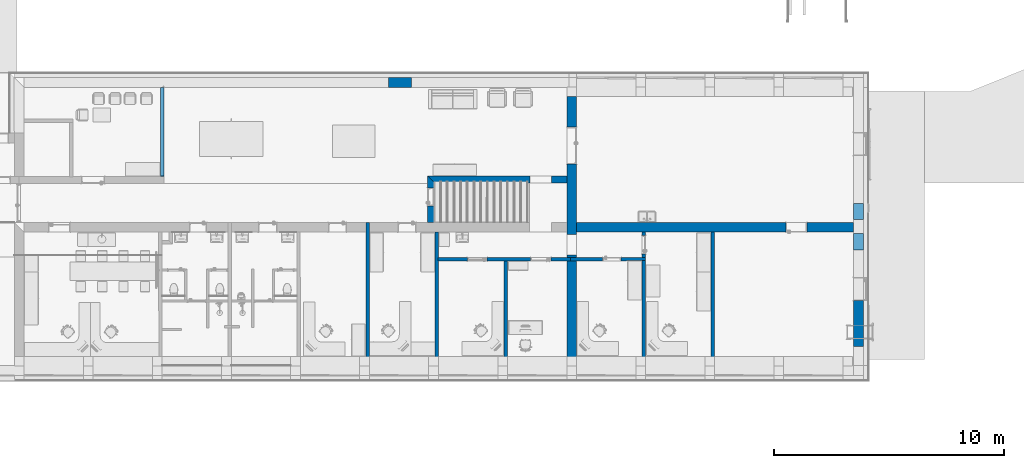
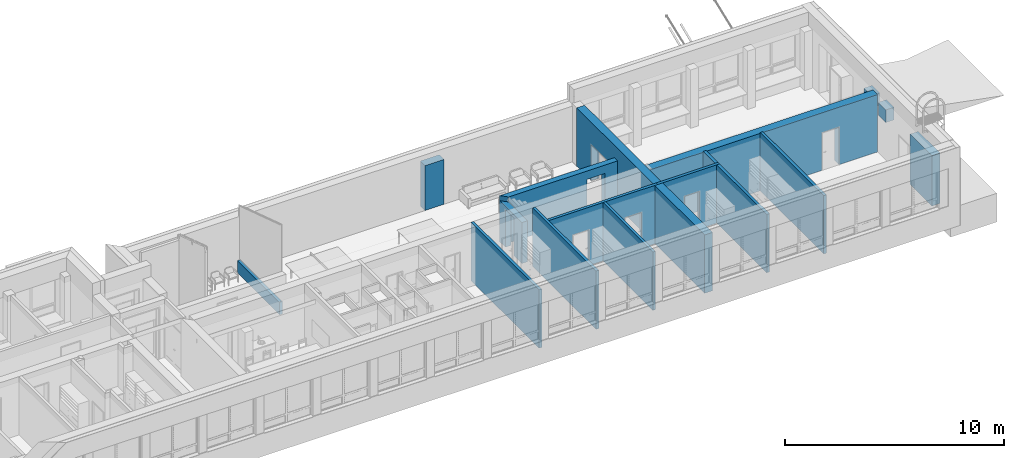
# One storey, part 26 of 194: 16 walls, 10 openings.
"""IFC2X3 building model written with IfcOpenShell, lengths in millimetres."""

import ifcopenshell
import ifcopenshell.guid

model = None  # the IFC model being written
_history = None  # IfcOwnerHistory: only IFC2X3 demands one
_inside = {}  # id of a spatial element -> (the spatial element, [elements in it])
_under = {}  # id of a project, library or spatial element -> (it, [spatial elements below it])
_declared = {}  # id of a project -> (the project, [libraries it declares])
_typed = {}  # id of a type object -> (the type object, [elements of that type])
_made_of = {}  # id of a material, layer set ... -> (it, [elements and type objects made of it])


def new_model(schema):
    """Start an empty IFC model of exactly this schema.

    Asked for "IFC4X3", IfcOpenShell would pick the latest addendum, in which some entities
    have other attributes; the version numbers below select the first issue.
    IFC2X3 requires an IfcOwnerHistory on every rooted entity: one is made here for all.
    """
    global model, _history
    if schema == "IFC4X3":
        model = ifcopenshell.file(schema_version=(4, 3, 0, 0))
    else:
        model = ifcopenshell.file(schema=schema)
    _inside.clear()
    _under.clear()
    _declared.clear()
    _typed.clear()
    _made_of.clear()
    _history = None
    if model.schema == "IFC2X3":
        org = make("IfcOrganization", Name="unknown")
        user = make(
            "IfcPersonAndOrganization",
            ThePerson=make("IfcPerson", FamilyName="unknown"),
            TheOrganization=org,
        )
        app = make(
            "IfcApplication",
            ApplicationDeveloper=org,
            Version="unknown",
            ApplicationFullName="unknown",
            ApplicationIdentifier="unknown",
        )
        _history = make(
            "IfcOwnerHistory",
            OwningUser=user,
            OwningApplication=app,
            ChangeAction="ADDED",
            CreationDate=0,
        )
    return model


def make(cls, **values):
    """One entity of the class cls with the attributes given. An attribute that is None is left unset."""
    return model.create_entity(
        cls, **{name: value for name, value in values.items() if value is not None}
    )


def entity(cls, *values):
    """Any entity or typed value of the class cls, its attributes in the order of the schema. None: left unset."""
    e = model.create_entity(cls)
    for i, value in enumerate(values):
        if value is not None:
            e[i] = value
    return e


def rooted(cls, **values):
    """An entity with a GlobalId (a new one), such as an element, a storey or a relation."""
    return make(cls, GlobalId=ifcopenshell.guid.new(), OwnerHistory=_history, **values)


def si_unit(unit_type, name, prefix=None):
    """IfcSIUnit, for example si_unit("LENGTHUNIT", "METRE", prefix="MILLI")."""
    return make("IfcSIUnit", UnitType=unit_type, Prefix=prefix, Name=name)


def converted_unit(unit_type, name, factor, base, dimensions=None, offset=None):
    """IfcConversionBasedUnit, such as the inch: factor (a typed value) times the base unit."""
    return make(
        "IfcConversionBasedUnit"
        if offset is None
        else "IfcConversionBasedUnitWithOffset",
        ConversionOffset=offset,
        Dimensions=None
        if dimensions is None
        else entity("IfcDimensionalExponents", *dimensions),
        UnitType=unit_type,
        Name=name,
        ConversionFactor=make(
            "IfcMeasureWithUnit", ValueComponent=factor, UnitComponent=base
        ),
    )


def derived_unit(unit_type, elements):
    """IfcDerivedUnit: a product of units, each with its exponent."""
    return make(
        "IfcDerivedUnit",
        Elements=[
            make("IfcDerivedUnitElement", Unit=unit, Exponent=power)
            for unit, power in elements
        ],
        UnitType=unit_type,
    )


def money_unit(currency):
    """IfcMonetaryUnit."""
    return make("IfcMonetaryUnit", Currency=currency)


def assignment(units):
    """IfcUnitAssignment: the units of a project."""
    return None if units is None else make("IfcUnitAssignment", Units=units)


def point(xyz):
    """IfcCartesianPoint."""
    return None if xyz is None else make("IfcCartesianPoint", Coordinates=xyz)


def direction(xyz):
    """IfcDirection."""
    return None if xyz is None else make("IfcDirection", DirectionRatios=xyz)


def frame(location, z_axis=None, x_axis=None):
    """IfcAxis2Placement3D, a coordinate frame: its origin and axes. An axis left out is left unset."""
    return make(
        "IfcAxis2Placement3D",
        Location=point(location),
        Axis=direction(z_axis),
        RefDirection=direction(x_axis),
    )


def frame_2d(location, x_axis=None):
    """IfcAxis2Placement2D, a coordinate frame in the plane: its origin and x axis."""
    return make(
        "IfcAxis2Placement2D", Location=point(location), RefDirection=direction(x_axis)
    )


def origin_with_axes():
    """The frame at (0, 0, 0) with the z axis (0, 0, 1) and the x axis (1, 0, 0) written out."""
    return frame((0.0, 0.0, 0.0), z_axis=(0.0, 0.0, 1.0), x_axis=(1.0, 0.0, 0.0))


def origin_2d_with_axis():
    """The frame at (0, 0) in the plane with the x axis (1, 0) written out."""
    return frame_2d((0.0, 0.0), x_axis=(1.0, 0.0))


def place(relative_to, where):
    """IfcLocalPlacement: puts the frame where relative to a parent placement (None: the world)."""
    return make(
        "IfcLocalPlacement", PlacementRelTo=relative_to, RelativePlacement=where
    )


def context(
    kind, dimensions, precision=None, world=None, true_north=None, identifier=None
):
    """IfcGeometricRepresentationContext, for example the 3D "Model" context."""
    return make(
        "IfcGeometricRepresentationContext",
        ContextIdentifier=identifier,
        ContextType=kind,
        CoordinateSpaceDimension=dimensions,
        Precision=precision,
        WorldCoordinateSystem=world,
        TrueNorth=true_north,
    )


def subcontext(parent, identifier, kind, view, scale=None):
    """IfcGeometricRepresentationSubContext, for example "Body" below "Model"."""
    return make(
        "IfcGeometricRepresentationSubContext",
        ContextIdentifier=identifier,
        ContextType=kind,
        ParentContext=parent,
        TargetScale=scale,
        TargetView=view,
    )


def project(units=None, contexts=None):
    """IfcProject with its units and contexts."""
    return rooted(
        "IfcProject",
        Name="project",
        RepresentationContexts=contexts,
        UnitsInContext=assignment(units),
    )


def spatial(cls, under=None, at=None, **own):
    """A site, building, storey or space (cls), placed at a placement, below another one or the project."""
    s = rooted(cls, ObjectPlacement=at, **own)
    if under is not None:
        _under.setdefault(under.id(), (under, []))[1].append(s)
    return s


def polyline(points):
    """IfcPolyline through the points."""
    return make("IfcPolyline", Points=[point(p) for p in points])


def profile(cls, at=None, kind="AREA", **sizes):
    """A parametric profile (cls). Its sizes go by their IFC names, for example OverallWidth=200.0."""
    return make(cls, ProfileType=kind, Position=at, **sizes)


def rectangle(**sizes):
    """IfcRectangleProfileDef."""
    return profile("IfcRectangleProfileDef", **sizes)


def outline(outer, holes=None, kind="AREA"):
    """IfcArbitraryClosedProfileDef: a profile drawn as a closed curve; with holes, ...WithVoids."""
    if holes is None:
        return make("IfcArbitraryClosedProfileDef", ProfileType=kind, OuterCurve=outer)
    return make(
        "IfcArbitraryProfileDefWithVoids",
        ProfileType=kind,
        OuterCurve=outer,
        InnerCurves=holes,
    )


def extrude(swept, where, along, depth):
    """IfcExtrudedAreaSolid: the profile swept, set in the frame where, extruded along a direction by depth."""
    return make(
        "IfcExtrudedAreaSolid",
        SweptArea=swept,
        Position=where,
        ExtrudedDirection=direction(along),
        Depth=depth,
    )


def shape(context_of_items, identifier, shape_type, items):
    """IfcShapeRepresentation: the items that make up one representation, for example the "Body"."""
    return make(
        "IfcShapeRepresentation",
        ContextOfItems=context_of_items,
        RepresentationIdentifier=identifier,
        RepresentationType=shape_type,
        Items=items,
    )


def material(Name=None, Category=None):
    """IfcMaterial."""
    return make("IfcMaterial", Name=Name, Category=Category)


def layer(
    of_material, thickness, ventilated=None, Name=None, Category=None, Priority=None
):
    """IfcMaterialLayer: one layer of a wall or slab, of a material (None: an air gap)."""
    return make(
        "IfcMaterialLayer",
        Material=of_material,
        LayerThickness=thickness,
        IsVentilated=ventilated,
        Name=Name,
        Category=Category,
        Priority=Priority,
    )


def layer_set(layers, Name=None):
    """IfcMaterialLayerSet."""
    return make("IfcMaterialLayerSet", MaterialLayers=layers, LayerSetName=Name)


def layer_usage(for_layer_set, set_direction, sense, offset, extent=None):
    """IfcMaterialLayerSetUsage: how a layer set lies in its element."""
    return make(
        "IfcMaterialLayerSetUsage",
        ForLayerSet=for_layer_set,
        LayerSetDirection=set_direction,
        DirectionSense=sense,
        OffsetFromReferenceLine=offset,
        ReferenceExtent=extent,
    )


def made_of(thing, what):
    """Note that an element or type object is made of a material, layer set ...; save() writes the relation."""
    if what is not None:
        _made_of.setdefault(what.id(), (what, []))[1].append(thing)
    return thing


def type_object(cls, material=None, **own):
    """A type object (cls), such as IfcWallType, which elements share."""
    return made_of(rooted(cls, **own), material)


def element(
    cls,
    number,
    at=None,
    inside=None,
    cuts=None,
    type_object=None,
    material=None,
    context=None,
    identifier="Body",
    shape_type=None,
    held_by="IfcProductDefinitionShape",
    body=None,
    shapes=None,
    **own,
):
    """One element of the class cls, such as IfcWall. Its Tag is "e" and its number.

    at: its placement. inside: the storey or other place that contains it. cuts: it is an
    opening in that element (IfcRelVoidsElement). A single representation is given by context,
    identifier, shape_type and body (its items); several are given by shapes. held_by: the class
    of the entity that holds the representations. save() writes the other relations.
    """
    e = rooted(cls, Tag="e%d" % number, ObjectPlacement=at, **own)
    if body is not None:
        shapes = [shape(context, identifier, shape_type, body)]
    if shapes is not None:
        e.Representation = make(held_by, Representations=shapes)
    if inside is not None:
        _inside.setdefault(inside.id(), (inside, []))[1].append(e)
    if cuts is not None:
        rooted(
            "IfcRelVoidsElement", RelatingBuildingElement=cuts, RelatedOpeningElement=e
        )
    if type_object is not None:
        _typed.setdefault(type_object.id(), (type_object, []))[1].append(e)
    return made_of(e, material)


def aggregate(whole, parts):
    """IfcRelAggregates: a whole, such as a stair, and the parts it consists of."""
    return rooted("IfcRelAggregates", RelatingObject=whole, RelatedObjects=parts)


def save(model, path):
    """Write the relations noted so far, then the file.

    IfcRelAggregates (storeys below a building ...), IfcRelContainedInSpatialStructure (elements
    in a storey), IfcRelDefinesByType, IfcRelAssociatesMaterial and IfcRelDeclares: one each for
    every whole, place, type object, material and project.
    """
    for whole, parts in _under.values():
        aggregate(whole, parts)
    for where, things in _inside.values():
        rooted(
            "IfcRelContainedInSpatialStructure",
            RelatedElements=things,
            RelatingStructure=where,
        )
    for kind, things in _typed.values():
        rooted("IfcRelDefinesByType", RelatedObjects=things, RelatingType=kind)
    for what, things in _made_of.values():
        rooted("IfcRelAssociatesMaterial", RelatedObjects=things, RelatingMaterial=what)
    for by, libraries in _declared.values():
        rooted("IfcRelDeclares", RelatingContext=by, RelatedDefinitions=libraries)
    model.write(path)


model = new_model("IFC2X3")

# Units and contexts
model_context = context("Model", 3, precision=1e-05, world=origin_with_axes(), true_north=direction((0.0, 1.0)))
body_context = subcontext(model_context, "Body", "Model", "MODEL_VIEW")
ifc_project = project(units=[si_unit("LENGTHUNIT", "METRE", prefix="MILLI"), si_unit("AREAUNIT", "SQUARE_METRE"), si_unit("VOLUMEUNIT", "CUBIC_METRE"), converted_unit("PLANEANGLEUNIT", "DEGREE", entity("IfcPlaneAngleMeasure", 0.0174532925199), si_unit("PLANEANGLEUNIT", "RADIAN"), dimensions=[0, 0, 0, 0, 0, 0, 0]), si_unit("SOLIDANGLEUNIT", "STERADIAN"), money_unit("EUR"), converted_unit("TIMEUNIT", "Year", entity("IfcTimeMeasure", 31556926.0), si_unit("TIMEUNIT", "SECOND"), dimensions=[0, 0, 1, 0, 0, 0, 0]), si_unit("MASSUNIT", "GRAM", prefix="KILO"), si_unit("THERMODYNAMICTEMPERATUREUNIT", "DEGREE_CELSIUS"), si_unit("LUMINOUSINTENSITYUNIT", "LUMEN"), si_unit("ENERGYUNIT", "JOULE", prefix="MEGA"), derived_unit("THERMALCONDUCTANCEUNIT", [(si_unit("POWERUNIT", "WATT"), 1), (si_unit("LENGTHUNIT", "METRE"), -1), (si_unit("THERMODYNAMICTEMPERATUREUNIT", "KELVIN"), -1)]), derived_unit("SPECIFICHEATCAPACITYUNIT", [(si_unit("ENERGYUNIT", "JOULE"), 1), (si_unit("MASSUNIT", "GRAM", prefix="KILO"), -1), (si_unit("THERMODYNAMICTEMPERATUREUNIT", "KELVIN"), -1)]), derived_unit("MASSDENSITYUNIT", [(si_unit("MASSUNIT", "GRAM", prefix="KILO"), 1), (si_unit("VOLUMEUNIT", "CUBIC_METRE"), -1)])], contexts=[model_context])

# Site, building, storey
site_placement = place(None, origin_with_axes())
site = spatial("IfcSite", under=ifc_project, at=site_placement, Name="Site", CompositionType="ELEMENT")
building_placement = place(site_placement, origin_with_axes())
building = spatial("IfcBuilding", under=site, at=building_placement, Name="Building", CompositionType="ELEMENT")
storey_placement = place(building_placement, frame((0.0, 0.0, 3000.0), z_axis=(0.0, 0.0, 1.0), x_axis=(1.0, 0.0, 0.0)))
storey = spatial("IfcBuildingStorey", under=building, at=storey_placement, Name="2 KORRUS", CompositionType="ELEMENT", Elevation=3000.0)

# Wall, opening
ifc_material_1 = material(Name="Kivi -Ol.Olev Konstruktsioon")
ifc_layer_1 = layer(ifc_material_1, 300.0, ventilated="UNKNOWN")
ifc_layer_set_1 = layer_set([ifc_layer_1], Name="ol.olev ss 300")
ifc_layer_usage_1 = layer_usage(ifc_layer_set_1, "AXIS2", "POSITIVE", -300.0)
wall_type_1 = type_object("IfcWallType", Name="SW - 022", PredefinedType="NOTDEFINED")
wall_1_placement = place(storey_placement, frame((81689.8313676, 43024.0850644, 0.0), z_axis=(0.0, 0.0, 1.0), x_axis=(1.0, 0.0, 0.0)))
wall_1 = element("IfcWallStandardCase", 1, at=wall_1_placement, inside=storey, type_object=wall_type_1, material=ifc_layer_usage_1, Name="ol.olev ss 300", context=body_context, shape_type="SweptSolid", body=[
    extrude(outline(polyline([(300.236940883, -300.0), (6047.52141703, -300.0), (6047.52141703, 0.0), (0.0, 0.0), (300.236940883, -300.0)])), origin_with_axes(), (0.0, 0.0, 1.0), 2567.45029227),
])
opening_1_placement = place(wall_1_placement, frame((4907.28345497, 0.0, 0.0), z_axis=(0.0, 0.0, 1.0), x_axis=(1.0, 0.0, 0.0)))
element("IfcOpeningElement", 2, at=opening_1_placement, cuts=wall_1, Name="Background;  Objekti nimi: Simple Door Opening", context=body_context, shape_type="SweptSolid", body=[
    extrude(rectangle(XDim=820.0, YDim=2040.0, at=origin_2d_with_axis()), frame((0.0, 0.0, 1020.0), z_axis=(0.0, -1.0, 0.0), x_axis=(1.0, 0.0, 0.0)), (0.0, 0.0, -1.0), 300.0),
    extrude(rectangle(XDim=940.0, YDim=2100.0, at=origin_2d_with_axis()), frame((0.0, 0.0, 1050.0), z_axis=(0.0, 1.0, 0.0), x_axis=(1.0, 0.0, 0.0)), (0.0, 0.0, -1.0), 300.0),
])

ifc_layer_usage_2 = layer_usage(ifc_layer_set_1, "AXIS2", "POSITIVE", 0.0)
wall_2_placement = place(storey_placement, frame((81689.8313676, 43024.0850644, 0.0), z_axis=(0.0, 0.0, 1.0), x_axis=(0.000789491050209, -0.999999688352, 0.0)))
wall_2 = element("IfcWallStandardCase", 3, at=wall_2_placement, inside=storey, type_object=wall_type_1, material=ifc_layer_usage_2, Name="ol.olev ss 300", context=body_context, shape_type="SweptSolid", body=[
    extrude(outline(polyline([(0.0, 0.0), (2021.02076615, 0.0), (2021.25761354, 300.0), (300.236940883, 300.0), (0.0, 0.0)])), origin_with_axes(), (0.0, 0.0, 1.0), 2287.45029227),
])
opening_2_placement = place(wall_2_placement, frame((902.224238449, 0.0, 0.0), z_axis=(0.0, 0.0, 1.0), x_axis=(1.0, 0.0, 0.0)))
element("IfcOpeningElement", 4, at=opening_2_placement, cuts=wall_2, Name="Siseuks * Door 22", context=body_context, shape_type="SweptSolid", body=[
    extrude(rectangle(XDim=780.000000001, YDim=2100.0, at=origin_2d_with_axis()), frame((9.09494701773e-10, 300.0, 1050.0), z_axis=(0.0, -1.0, 0.0), x_axis=(-1.0, 0.0, 0.0)), (0.0, 0.0, 1.0), 900.0),
    extrude(rectangle(XDim=853.999999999, YDim=2137.0, at=origin_2d_with_axis()), frame((0.0, 300.0, 1068.5), z_axis=(0.0, -1.0, 0.0), x_axis=(-1.0, 0.0, 0.0)), (0.0, 0.0, -1.0), 300.0),
    extrude(rectangle(XDim=854.0, YDim=2137.0, at=origin_2d_with_axis()), frame((0.0, 0.0, 1068.5), z_axis=(0.0, 1.0, 0.0), x_axis=(-1.0, 0.0, 0.0)), (0.0, 0.0, -1.0), 300.0),
])

# Walls
ifc_layer_2 = layer(ifc_material_1, 150.0, ventilated="UNKNOWN")
ifc_layer_set_2 = layer_set([ifc_layer_2], Name="ol.olev ss 150")
ifc_layer_usage_3 = layer_usage(ifc_layer_set_2, "AXIS2", "NEGATIVE", 0.0)
wall_3_placement = place(storey_placement, frame((79152.8131793, 41003.0792247, 0.0), z_axis=(0.0, 0.0, 1.0), x_axis=(0.000779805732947, -0.999999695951, 0.0)))
element("IfcWallStandardCase", 5, at=wall_3_placement, inside=storey, type_object=wall_type_1, material=ifc_layer_usage_3, Name="ol.olev ss 150", context=body_context, shape_type="SweptSolid", body=[
    extrude(outline(polyline([(0.0, -150.0), (6218.08134438, -150.0), (6218.18552869, 0.0), (0.0, 0.0), (0.0, -150.0)])), origin_with_axes(), (0.0, 0.0, 1.0), 3250.0),
])
ifc_layer_usage_4 = layer_usage(ifc_layer_set_2, "AXIS2", "NEGATIVE", 0.0)
wall_4_placement = place(storey_placement, frame((82157.3527847, 41003.0649281, 0.0), z_axis=(0.0, 0.0, 1.0), x_axis=(0.0, -1.0, 0.0)))
element("IfcWallStandardCase", 6, at=wall_4_placement, inside=storey, type_object=wall_type_1, material=ifc_layer_usage_4, Name="ol.olev ss 150", context=body_context, shape_type="SweptSolid", body=[
    extrude(outline(polyline([(420.0, -150.0), (6217.92642284, -150.0), (6217.91363626, 0.0), (420.0, 0.0), (420.0, -150.0)])), origin_with_axes(), (0.0, 0.0, 1.0), 3250.0),
])

# Wall, openings
ifc_layer_usage_5 = layer_usage(ifc_layer_set_2, "AXIS2", "POSITIVE", 0.0)
wall_5_placement = place(storey_placement, frame((82149.0934728, 39338.5082079, 0.0), z_axis=(0.0, 0.0, 1.0), x_axis=(0.999999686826, 0.000791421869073, 0.0)))
wall_5 = element("IfcWallStandardCase", 7, at=wall_5_placement, inside=storey, type_object=wall_type_1, material=ifc_layer_usage_5, Name="ol.olev ss 150", context=body_context, shape_type="SweptSolid", body=[
    extrude(outline(polyline([(0.0, 0.0), (5745.59364148, 9.09494701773e-10), (5745.59364148, 150.000000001), (0.0, 150.000000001), (0.0, 0.0)])), origin_with_axes(), (0.0, 0.0, 1.0), 3250.0),
])
opening_3_placement = place(wall_5_placement, frame((1700.59019671, 9.09494701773e-10, 0.0), z_axis=(0.0, 0.0, 1.0), x_axis=(1.0, 0.0, 0.0)))
element("IfcOpeningElement", 8, at=opening_3_placement, cuts=wall_5, Name="Siseuks * Door 22", context=body_context, shape_type="SweptSolid", body=[
    extrude(rectangle(XDim=860.0, YDim=2000.0, at=origin_2d_with_axis()), frame((1.13686837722e-10, -150.000000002, 1000.0), z_axis=(0.0, 1.0, 0.0), x_axis=(-1.0, 0.0, 0.0)), (0.0, 0.0, 1.0), 450.000000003),
    extrude(rectangle(XDim=934.0, YDim=2037.0, at=origin_2d_with_axis()), frame((0.0, -9.09494701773e-10, 1018.5), z_axis=(0.0, 1.0, 0.0), x_axis=(-1.0, 0.0, 0.0)), (0.0, 0.0, -1.0), 150.000000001),
    extrude(rectangle(XDim=934.0, YDim=2037.0, at=origin_2d_with_axis()), frame((1.13686837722e-10, 150.000000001, 1018.5), z_axis=(0.0, -1.0, 0.0), x_axis=(-1.0, 0.0, 0.0)), (0.0, 0.0, -1.0), 150.000000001),
])
opening_4_placement = place(wall_5_placement, frame((4459.4079378, 9.09494701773e-10, 0.0), z_axis=(0.0, 0.0, 1.0), x_axis=(1.0, 0.0, 0.0)))
element("IfcOpeningElement", 9, at=opening_4_placement, cuts=wall_5, Name="Siseuks * Door 22", context=body_context, shape_type="SweptSolid", body=[
    extrude(rectangle(XDim=880.0, YDim=2000.0, at=origin_2d_with_axis()), frame((-2.27373675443e-10, 150.000000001, 1000.0), z_axis=(0.0, -1.0, 0.0), x_axis=(-1.0, 0.0, 0.0)), (0.0, 0.0, 1.0), 450.000000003),
    extrude(rectangle(XDim=954.0, YDim=2037.0, at=origin_2d_with_axis()), frame((1.13686837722e-10, 150.0, 1018.5), z_axis=(0.0, -1.0, 0.0), x_axis=(-1.0, 0.0, 0.0)), (0.0, 0.0, -1.0), 150.000000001),
    extrude(rectangle(XDim=954.0, YDim=2037.0, at=origin_2d_with_axis()), frame((-1.13686837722e-10, 0.0, 1018.5), z_axis=(0.0, 1.0, 0.0), x_axis=(-1.0, 0.0, 0.0)), (0.0, 0.0, -1.0), 150.000000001),
])

# Wall, opening
ifc_layer_usage_6 = layer_usage(ifc_layer_set_2, "AXIS2", "NEGATIVE", 0.0)
wall_6_placement = place(storey_placement, frame((91152.1959133, 41003.0649281, 0.0), z_axis=(0.0, 0.0, 1.0), x_axis=(0.000886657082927, -0.99999960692, 0.0)))
wall_6 = element("IfcWallStandardCase", 10, at=wall_6_placement, inside=storey, type_object=wall_type_1, material=ifc_layer_usage_6, Name="ol.olev ss 150", context=body_context, shape_type="SweptSolid", body=[
    extrude(outline(polyline([(419.867166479, -150.0), (6217.02864315, -150.0), (6217.14885517, 0.0), (420.000165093, -1.13686837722e-10), (419.867166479, -150.0)])), origin_with_axes(), (0.0, 0.0, 1.0), 3250.0),
])
opening_5_placement = place(wall_6_placement, frame((963.742575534, -1.13686837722e-10, 0.0), z_axis=(0.0, 0.0, 1.0), x_axis=(1.0, 0.0, 0.0)))
element("IfcOpeningElement", 11, at=opening_5_placement, cuts=wall_6, Name="Siseuks * Door 22", context=body_context, shape_type="SweptSolid", body=[
    extrude(rectangle(XDim=800.000000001, YDim=2100.0, at=origin_2d_with_axis()), frame((0.0, -150.0, 1050.0), z_axis=(0.0, -1.0, 0.0), x_axis=(-1.0, 0.0, 0.0)), (0.0, 0.0, -1.0), 450.0),
    extrude(rectangle(XDim=874.0, YDim=2137.0, at=origin_2d_with_axis()), frame((0.0, -150.0, 1068.5), z_axis=(0.0, -1.0, 0.0), x_axis=(-1.0, 0.0, 0.0)), (0.0, 0.0, 1.0), 150.0),
    extrude(rectangle(XDim=874.0, YDim=2137.0, at=origin_2d_with_axis()), frame((-9.09494701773e-10, 0.0, 1068.5), z_axis=(0.0, 1.0, 0.0), x_axis=(-1.0, 0.0, 0.0)), (0.0, 0.0, 1.0), 150.0),
])

# Walls
ifc_layer_usage_7 = layer_usage(ifc_layer_set_2, "AXIS2", "NEGATIVE", 0.0)
wall_7_placement = place(storey_placement, frame((94157.3527847, 41003.0649281, 0.0), z_axis=(0.0, 0.0, 1.0), x_axis=(0.0, -1.0, 0.0)))
element("IfcWallStandardCase", 12, at=wall_7_placement, inside=storey, type_object=wall_type_1, material=ifc_layer_usage_7, Name="ol.olev ss 150", context=body_context, shape_type="SweptSolid", body=[
    extrude(outline(polyline([(420.0, -150.0), (6216.90349669, -150.0), (6216.89071011, 0.0), (420.0, 0.0), (420.0, -150.0)])), origin_with_axes(), (0.0, 0.0, 1.0), 3250.0),
])
ifc_layer_usage_8 = layer_usage(ifc_layer_set_2, "AXIS2", "NEGATIVE", 0.0)
wall_8_placement = place(storey_placement, frame((85162.7203538, 39340.8942008, 0.0), z_axis=(0.0, 0.0, 1.0), x_axis=(-0.00129050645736, -0.999999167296, 0.0)))
element("IfcWallStandardCase", 13, at=wall_8_placement, inside=storey, type_object=wall_type_1, material=ifc_layer_usage_8, Name="ol.olev ss 150", context=body_context, shape_type="SweptSolid", body=[
    extrude(outline(polyline([(0.313231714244, -150.0), (4555.6973771, -150.0), (4555.49101437, 0.0), (0.000941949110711, 1.13686837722e-10), (0.313231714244, -150.0)])), origin_with_axes(), (0.0, 0.0, 1.0), 3250.0),
])

# Wall, opening
ifc_layer_usage_9 = layer_usage(ifc_layer_set_2, "AXIS2", "POSITIVE", 0.0)
wall_9_placement = place(storey_placement, frame((87894.6853149, 39343.1535363, 0.0), z_axis=(0.0, 0.0, 1.0), x_axis=(0.999999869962, 0.000509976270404, 0.0)))
wall_9 = element("IfcWallStandardCase", 14, at=wall_9_placement, inside=storey, type_object=wall_type_1, material=ifc_layer_usage_9, Name="ol.olev ss 150", context=body_context, shape_type="SweptSolid", body=[
    extrude(outline(polyline([(0.0, 0.0), (3257.511022, 9.09494701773e-10), (3257.511022, 150.000000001), (0.0, 150.000000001), (0.0, 0.0)])), origin_with_axes(), (0.0, 0.0, 1.0), 3250.0),
])
opening_6_placement = place(wall_9_placement, frame((1801.66666503, 0.0, 0.0), z_axis=(0.0, 0.0, 1.0), x_axis=(1.0, 0.0, 0.0)))
element("IfcOpeningElement", 15, at=opening_6_placement, cuts=wall_9, Name="Siseuks * Door 22", context=body_context, shape_type="SweptSolid", body=[
    extrude(rectangle(XDim=800.0, YDim=2100.0, at=origin_2d_with_axis()), frame((2.27373675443e-10, -150.000000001, 1050.0), z_axis=(0.0, 1.0, 0.0), x_axis=(1.0, 0.0, 0.0)), (0.0, 0.0, 1.0), 450.000000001),
    extrude(rectangle(XDim=874.0, YDim=2137.0, at=origin_2d_with_axis()), frame((0.0, 0.0, 1068.5), z_axis=(0.0, 1.0, 0.0), x_axis=(1.0, 0.0, 0.0)), (0.0, 0.0, -1.0), 150.000000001),
    extrude(rectangle(XDim=874.0, YDim=2137.0, at=origin_2d_with_axis()), frame((0.0, 150.000000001, 1068.5), z_axis=(0.0, -1.0, 0.0), x_axis=(1.0, 0.0, 0.0)), (0.0, 0.0, -1.0), 150.000000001),
])

ifc_layer_3 = layer(ifc_material_1, 420.0, ventilated="UNKNOWN")
ifc_layer_set_3 = layer_set([ifc_layer_3], Name="ol.olev ss 420")
ifc_layer_usage_10 = layer_usage(ifc_layer_set_3, "AXIS2", "POSITIVE", -420.0)
wall_10_placement = place(storey_placement, frame((87894.6853149, 41003.0649281, 0.0), z_axis=(0.0, 0.0, 1.0), x_axis=(1.0, 0.0, 0.0)))
wall_10 = element("IfcWallStandardCase", 16, at=wall_10_placement, inside=storey, type_object=wall_type_1, material=ifc_layer_usage_10, Name="ol.olev ss 420", context=body_context, shape_type="SweptSolid", body=[
    extrude(outline(polyline([(0.0, -420.0), (12301.4890109, -420.0), (12301.424341, 0.0), (0.0, 0.0), (0.0, -420.0)])), origin_with_axes(), (0.0, 0.0, 1.0), 3200.0),
])
opening_7_placement = place(wall_10_placement, frame((9820.15391739, 0.0, 0.0), z_axis=(0.0, 0.0, 1.0), x_axis=(1.0, 0.0, 0.0)))
element("IfcOpeningElement", 17, at=opening_7_placement, cuts=wall_10, Name="Siseuks * Door 22", context=body_context, shape_type="SweptSolid", body=[
    extrude(rectangle(XDim=900.0, YDim=2100.0, at=origin_2d_with_axis()), frame((0.0, 420.0, 1050.0), z_axis=(0.0, 1.0, 0.0), x_axis=(1.0, 0.0, 0.0)), (0.0, 0.0, -1.0), 1260.0),
    extrude(rectangle(XDim=974.0, YDim=2137.0, at=origin_2d_with_axis()), frame((0.0, 0.0, 1068.5), z_axis=(0.0, 1.0, 0.0), x_axis=(1.0, 0.0, 0.0)), (0.0, 0.0, 1.0), 420.0),
    extrude(rectangle(XDim=974.0, YDim=2137.0, at=origin_2d_with_axis()), frame((0.0, -420.0, 1068.5), z_axis=(0.0, -1.0, 0.0), x_axis=(1.0, 0.0, 0.0)), (0.0, 0.0, 1.0), 420.0),
])

# Wall, openings
ifc_layer_usage_11 = layer_usage(ifc_layer_set_3, "AXIS2", "POSITIVE", -420.0)
wall_type_2 = type_object("IfcWallType", Name="SW - 032", PredefinedType="NOTDEFINED")
wall_11_placement = place(storey_placement, frame((87737.3527847, 34355.6269509, 0.0), z_axis=(0.0, 0.0, 1.0), x_axis=(0.0, 1.0, 0.0)))
wall_11 = element("IfcWallStandardCase", 18, at=wall_11_placement, inside=storey, type_object=wall_type_2, material=ifc_layer_usage_11, Name="ol.olev ss 420", context=body_context, shape_type="SweptSolid", body=[
    extrude(outline(polyline([(430.035803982, -420.0), (12116.1155054, -420.0), (12116.1155054, 0.0), (430.000001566, 0.0), (430.035803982, -420.0)])), origin_with_axes(), (0.0, 0.0, 1.0), 3250.0),
])
opening_8_placement = place(wall_11_placement, frame((5678.66715227, 0.0, 0.0), z_axis=(0.0, 0.0, 1.0), x_axis=(1.0, 0.0, 0.0)))
element("IfcOpeningElement", 19, at=opening_8_placement, cuts=wall_11, Name="Siseuks * Rectangular Door Opening 22", context=body_context, shape_type="SweptSolid", body=[
    extrude(rectangle(XDim=900.0, YDim=2100.0, at=origin_2d_with_axis()), frame((0.0, 420.0, 1050.0), z_axis=(0.0, -1.0, 0.0), x_axis=(1.0, 0.0, 0.0)), (0.0, 0.0, 1.0), 1260.0),
])
opening_9_placement = place(wall_11_placement, frame((9990.59023748, 0.0, 0.0), z_axis=(0.0, 0.0, 1.0), x_axis=(1.0, 0.0, 0.0)))
element("IfcOpeningElement", 20, at=opening_9_placement, cuts=wall_11, Name="Siseuks * Double Door 22", context=body_context, shape_type="SweptSolid", body=[
    extrude(rectangle(XDim=1600.0, YDim=2000.0, at=origin_2d_with_axis()), frame((0.0, 420.0, 1000.0), z_axis=(0.0, 1.0, 0.0), x_axis=(1.0, 0.0, 0.0)), (0.0, 0.0, -1.0), 1260.0),
    extrude(rectangle(XDim=1674.0, YDim=2037.0, at=origin_2d_with_axis()), frame((0.0, 0.0, 1018.5), z_axis=(0.0, 1.0, 0.0), x_axis=(1.0, 0.0, 0.0)), (0.0, 0.0, 1.0), 420.0),
    extrude(rectangle(XDim=1674.0, YDim=2037.0, at=origin_2d_with_axis()), frame((0.0, -420.0, 1018.5), z_axis=(0.0, -1.0, 0.0), x_axis=(1.0, 0.0, 0.0)), (0.0, 0.0, 1.0), 420.0),
])

# Wall, opening
ifc_material_2 = material(Name="Kivi -  Uus Konstruktsioon")
ifc_layer_4 = layer(ifc_material_2, 150.0, ventilated="UNKNOWN")
ifc_layer_set_4 = layer_set([ifc_layer_4], Name="uus ss 150")
ifc_layer_usage_12 = layer_usage(ifc_layer_set_4, "AXIS2", "POSITIVE", 0.0)
wall_type_3 = type_object("IfcWallType", Name="SS-2", PredefinedType="NOTDEFINED")
wall_12_placement = place(storey_placement, frame((70234.7281066, 43000.4940854, 0.0), z_axis=(0.0, 0.0, 1.0), x_axis=(0.0, 1.0, 0.0)))
wall_12 = element("IfcWallStandardCase", 21, at=wall_12_placement, inside=storey, type_object=wall_type_3, material=ifc_layer_usage_12, Name="uus ss 150", context=body_context, shape_type="SweptSolid", body=[
    extrude(outline(polyline([(0.0, 0.0), (3871.83180753, 0.0), (3871.83180753, 150.0), (0.0, 150.0), (0.0, 0.0)])), origin_with_axes(), (0.0, 0.0, 1.0), 700.0),
])
opening_10_placement = place(wall_12_placement, frame((1982.2982327, 0.0, 676.911823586), z_axis=(0.0, 0.0, 1.0), x_axis=(1.0, 0.0, 0.0)))
element("IfcOpeningElement", 22, at=opening_10_placement, cuts=wall_12, Name="Talveaja klaassein", context=body_context, shape_type="SweptSolid", body=[
    extrude(outline(polyline([(-1948.5, 0.0), (-1948.5, -4300.0), (1948.5, -3040.0), (1948.5, 0.0), (-1948.5, 0.0)])), frame((0.0, 150.0, 0.0), z_axis=(0.0, 1.0, 0.0), x_axis=(1.0, 0.0, 0.0)), (0.0, 0.0, -1.0), 450.0),
])

# Walls
ifc_layer_5 = layer(ifc_material_2, 430.0, ventilated="UNKNOWN")
ifc_layer_set_5 = layer_set([ifc_layer_5], Name="uus kinni ehitav sein 430")
ifc_layer_usage_13 = layer_usage(ifc_layer_set_5, "AXIS2", "POSITIVE", 0.0)
wall_type_4 = type_object("IfcWallType", Name="Kinniehitavad restid", PredefinedType="NOTDEFINED")
wall_13_placement = place(storey_placement, frame((100626.291641, 39821.1903662, 2100.0), z_axis=(0.0, 0.0, 1.0), x_axis=(-0.000153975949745, 0.999999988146, 0.0)))
element("IfcWallStandardCase", 23, at=wall_13_placement, inside=storey, type_object=wall_type_4, material=ifc_layer_usage_13, Name="uus kinni ehitav sein 430", context=body_context, shape_type="SweptSolid", body=[
    extrude(outline(polyline([(0.0, 0.0), (700.000000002, 0.0), (700.000000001, 430.0), (9.09494701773e-10, 430.0), (0.0, 0.0)])), origin_with_axes(), (0.0, 0.0, 1.0), 700.0),
])
ifc_layer_usage_14 = layer_usage(ifc_layer_set_5, "AXIS2", "POSITIVE", 0.0)
wall_14_placement = place(storey_placement, frame((100626.089132, 41136.3922913, 2100.0), z_axis=(0.0, 0.0, 1.0), x_axis=(-0.000153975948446, 0.999999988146, 0.0)))
element("IfcWallStandardCase", 24, at=wall_14_placement, inside=storey, type_object=wall_type_4, material=ifc_layer_usage_14, Name="uus kinni ehitav sein 430", context=body_context, shape_type="SweptSolid", body=[
    extrude(outline(polyline([(0.0, 0.0), (700.000000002, 0.0), (700.0, 430.0), (0.0, 430.0), (0.0, 0.0)])), origin_with_axes(), (0.0, 0.0, 1.0), 700.0),
])
ifc_layer_usage_15 = layer_usage(ifc_layer_set_5, "AXIS2", "POSITIVE", 0.0)
wall_type_5 = type_object("IfcWallType", Name="VS-4", PredefinedType="NOTDEFINED")
wall_15_placement = place(storey_placement, frame((100625.81271, 35616.5965876, 0.0), z_axis=(0.0, 0.0, 1.0), x_axis=(-0.000153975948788, 0.999999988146, 0.0)))
element("IfcWallStandardCase", 25, at=wall_15_placement, inside=storey, type_object=wall_type_5, material=ifc_layer_usage_15, Name="uus kinni ehitav sein 430", context=body_context, shape_type="SweptSolid", body=[
    extrude(outline(polyline([(0.0, 0.0), (2000.01379116, 0.0), (2000.01379116, 430.0), (0.0, 430.0), (0.0, 0.0)])), origin_with_axes(), (0.0, 0.0, 1.0), 2800.0),
])
ifc_layer_usage_16 = layer_usage(ifc_layer_set_5, "AXIS2", "POSITIVE", 0.0)
wall_16_placement = place(storey_placement, frame((79978.3811866, 46872.325893, 0.0), z_axis=(0.0, 0.0, 1.0), x_axis=(1.0, 0.0, 0.0)))
element("IfcWallStandardCase", 26, at=wall_16_placement, inside=storey, type_object=wall_type_5, material=ifc_layer_usage_16, Name="uus kinni ehitav sein 430", context=body_context, shape_type="SweptSolid", body=[
    extrude(outline(polyline([(0.0, 0.0), (1000.0, 0.0), (1000.0, 430.0), (0.0, 430.0), (0.0, 0.0)])), origin_with_axes(), (0.0, 0.0, 1.0), 2500.0),
])

save(model, "model.ifc")
